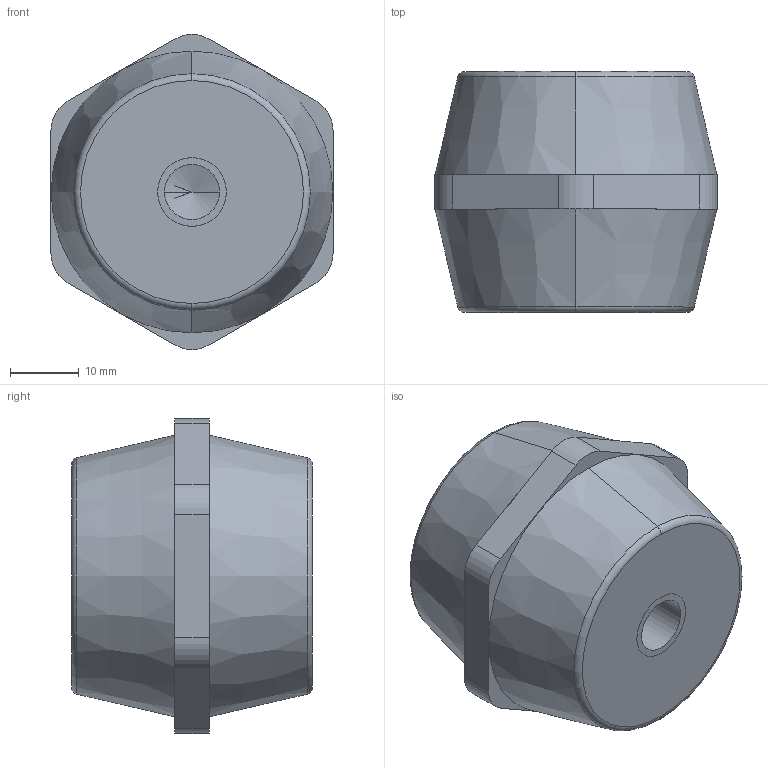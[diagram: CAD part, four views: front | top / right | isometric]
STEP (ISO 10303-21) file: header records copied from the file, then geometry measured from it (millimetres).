
FILE_DESCRIPTION (( 'STEP AP203' ), '1' );
FILE_NAME ('Isolatore 3916 41X35-M8.STEP', '2024-10-28T22:55:08', ( '' ), ( '' ), 'SwSTEP 2.0', 'SolidWorks 2020', '' );
FILE_SCHEMA (( 'CONFIG_CONTROL_DESIGN' ));
Length unit declared in the file: millimetre
Products named in the file (1): Isolatore 3916 41X35-M8
Bounding box: 41 x 35 x 45.8 mm (x, y, z)
Volume: 39555.4 mm3; surface area: 8662.8 mm2
Topology: 3 solids, 3 shells, 75 faces, 167 edges, 100 vertices
Faces by surface type: cylinder 35, plane 20, cone 16, torus 4
Entity records: 2088 total; most frequent: DIRECTION 393, CARTESIAN_POINT 331, ORIENTED_EDGE 310, AXIS2_PLACEMENT_3D 162, EDGE_CURVE 155, VERTEX_POINT 100, EDGE_LOOP 89, CIRCLE 86
